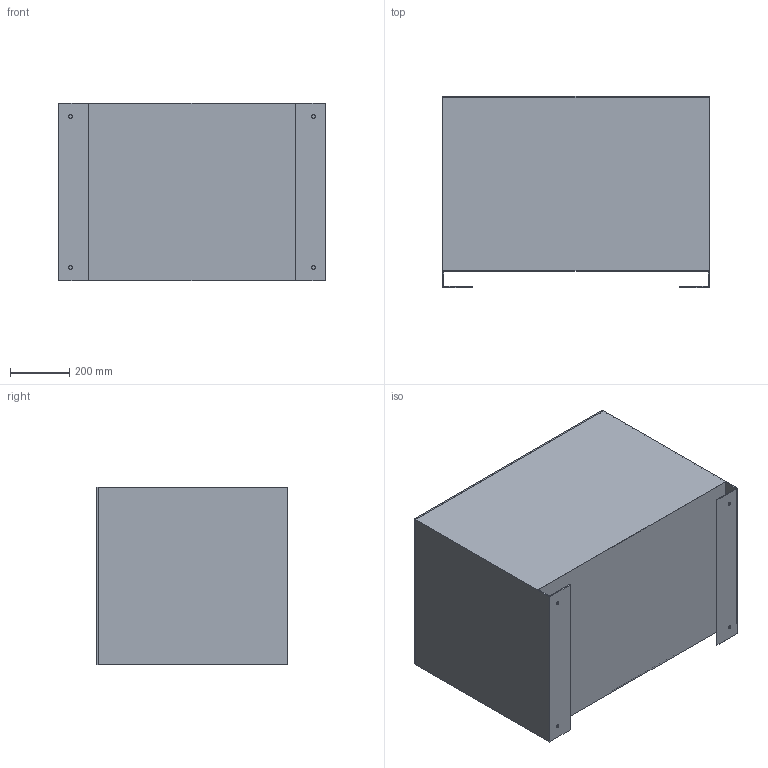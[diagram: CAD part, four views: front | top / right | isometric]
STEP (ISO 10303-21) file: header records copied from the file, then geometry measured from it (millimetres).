
FILE_DESCRIPTION((''),'2;1');
FILE_NAME('STP200','2017-04-01T',('passonicorrado'),('FAI FILTRI s:r.l.'),'PRO/ENGINEER BY PARAMETRIC TECHNOLOGY CORPORATION, 2010180','PRO/ENGINEER BY PARAMETRIC TECHNOLOGY CORPORATION, 2010180','');
FILE_SCHEMA(('CONFIG_CONTROL_DESIGN'));
Length unit declared in the file: millimetre
Products named in the file (1): STP200
Bounding box: 900 x 646.1 x 600 mm (x, y, z)
Volume: 13050818.1 mm3; surface area: 6018419.1 mm2
Topology: 2 solids, 2 shells, 33 faces, 84 edges, 56 vertices
Faces by surface type: plane 25, cylinder 8
Entity records: 1046 total; most frequent: CARTESIAN_POINT 173, ORIENTED_EDGE 168, DIRECTION 166, EDGE_CURVE 84, VECTOR 68, LINE 68, VERTEX_POINT 56, AXIS2_PLACEMENT_3D 49
